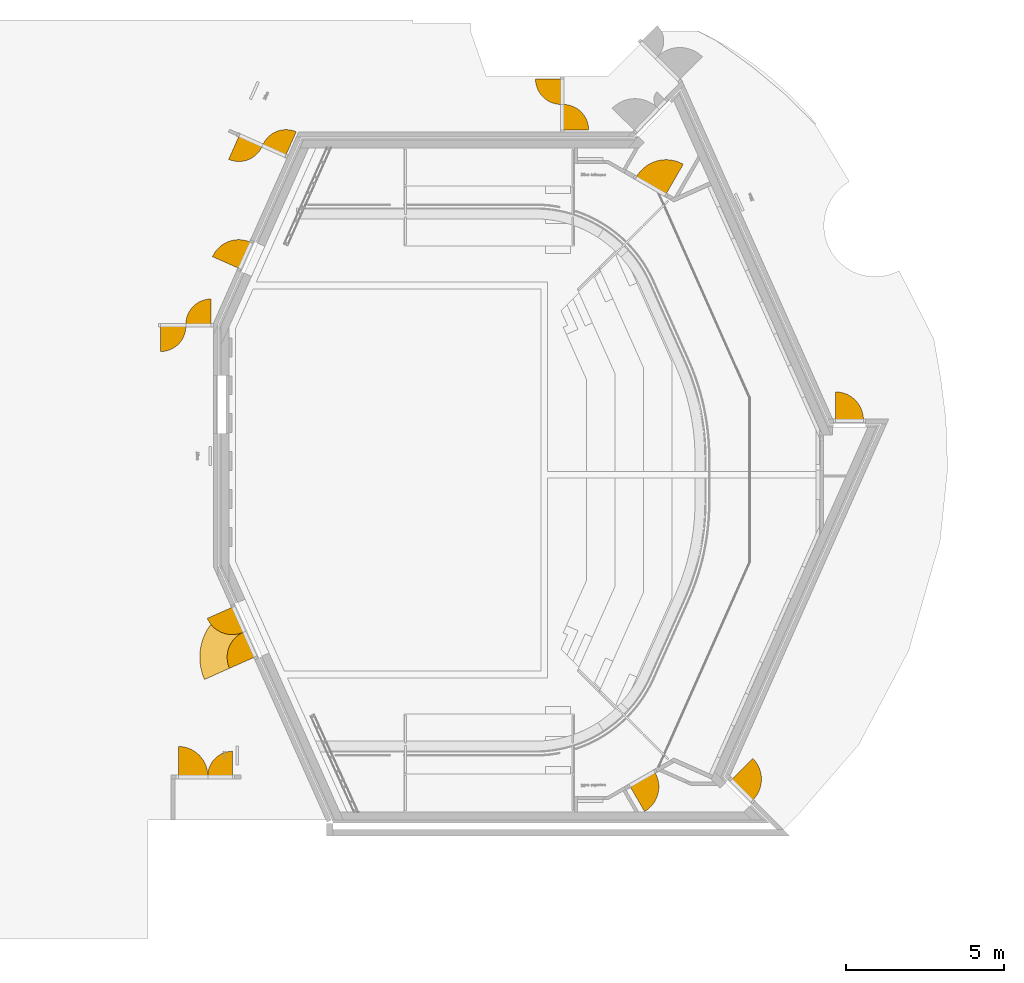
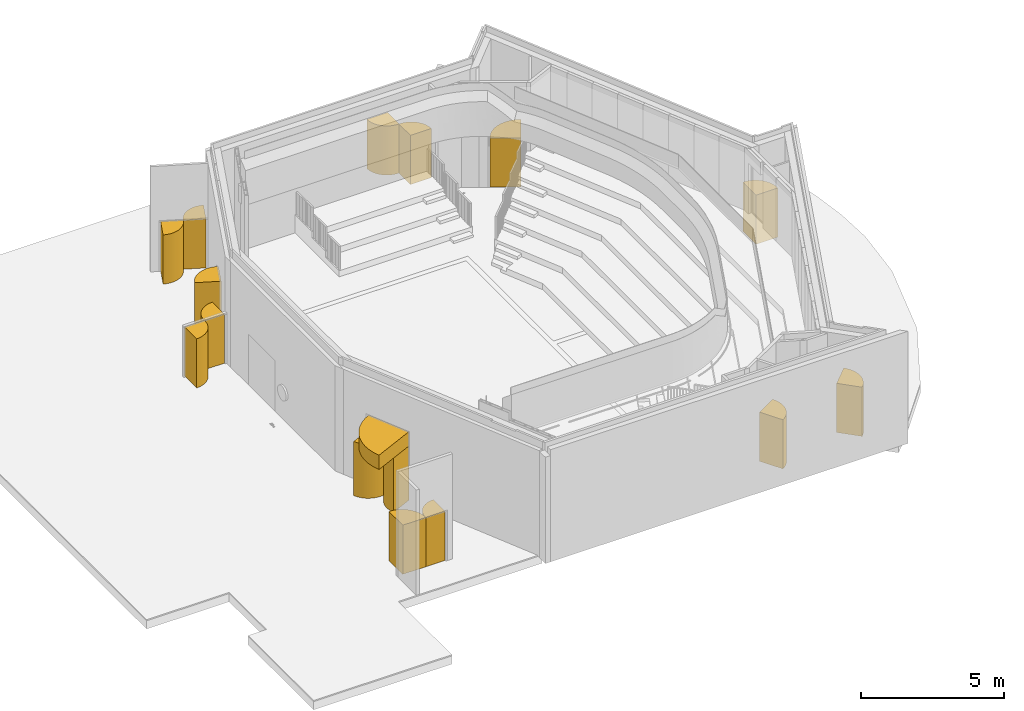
# One storey, part 13 of 19: 16 doors, 10 elements without a shape of their own.
"""IFC2X3 building model written with IfcOpenShell, lengths in millimetres."""

from ifc_helpers import new_model, entity, si_unit, converted_unit, derived_unit, direction, frame, frame_2d, origin, origin_2d_with_axis, place, context, subcontext, project, spatial, polyline, circle_curve, parameter, trimmed, segment, composite_curve, rectangle, outline, extrude, source, transform, mapped, material, material_list, type_object, type_shapes, element, aggregate, save


model = new_model("IFC2X3")

# Units and contexts
model_context = context("Model", 3, precision=0.01, world=origin(), true_north=direction((6.123031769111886e-17, 1.0)))
body_context = subcontext(model_context, "Body", "Model", "MODEL_VIEW")
ifc_project = project(units=[si_unit("LENGTHUNIT", "METRE", prefix="MILLI"), si_unit("AREAUNIT", "SQUARE_METRE"), si_unit("VOLUMEUNIT", "CUBIC_METRE"), converted_unit("PLANEANGLEUNIT", "DEGREE", entity("IfcRatioMeasure", 0.017453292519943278), si_unit("PLANEANGLEUNIT", "RADIAN"), dimensions=[0, 0, 0, 0, 0, 0, 0]), si_unit("MASSUNIT", "GRAM", prefix="KILO"), derived_unit("MASSDENSITYUNIT", [(si_unit("MASSUNIT", "GRAM", prefix="KILO"), 1), (si_unit("LENGTHUNIT", "METRE"), -3)]), derived_unit("MOMENTOFINERTIAUNIT", [(si_unit("LENGTHUNIT", "METRE"), 4)]), si_unit("TIMEUNIT", "SECOND"), si_unit("FREQUENCYUNIT", "HERTZ"), si_unit("THERMODYNAMICTEMPERATUREUNIT", "DEGREE_CELSIUS"), derived_unit("THERMALTRANSMITTANCEUNIT", [(si_unit("MASSUNIT", "GRAM", prefix="KILO"), 1), (si_unit("THERMODYNAMICTEMPERATUREUNIT", "KELVIN"), -1), (si_unit("TIMEUNIT", "SECOND"), -3)]), derived_unit("VOLUMETRICFLOWRATEUNIT", [(si_unit("LENGTHUNIT", "METRE"), 3), (si_unit("TIMEUNIT", "SECOND"), -1)]), derived_unit("MASSFLOWRATEUNIT", [(si_unit("MASSUNIT", "GRAM", prefix="KILO"), 1), (si_unit("TIMEUNIT", "SECOND"), -1)]), derived_unit("ROTATIONALFREQUENCYUNIT", [(si_unit("TIMEUNIT", "SECOND"), -1)]), si_unit("ELECTRICCURRENTUNIT", "AMPERE"), si_unit("ELECTRICVOLTAGEUNIT", "VOLT"), si_unit("POWERUNIT", "WATT"), si_unit("FORCEUNIT", "NEWTON", prefix="KILO"), si_unit("ILLUMINANCEUNIT", "LUX"), si_unit("LUMINOUSFLUXUNIT", "LUMEN"), si_unit("LUMINOUSINTENSITYUNIT", "CANDELA"), derived_unit("USERDEFINED", [(si_unit("MASSUNIT", "GRAM", prefix="KILO"), -1), (si_unit("LENGTHUNIT", "METRE"), -2), (si_unit("TIMEUNIT", "SECOND"), 3), (si_unit("LUMINOUSFLUXUNIT", "LUMEN"), 1)]), derived_unit("SOUNDPOWERUNIT", [(si_unit("MASSUNIT", "GRAM", prefix="KILO"), 1), (si_unit("LENGTHUNIT", "METRE"), 2), (si_unit("TIMEUNIT", "SECOND"), -3)]), derived_unit("SOUNDPRESSUREUNIT", [(si_unit("MASSUNIT", "GRAM", prefix="KILO"), 1), (si_unit("LENGTHUNIT", "METRE"), -1), (si_unit("TIMEUNIT", "SECOND"), -2)]), derived_unit("LINEARVELOCITYUNIT", [(si_unit("LENGTHUNIT", "METRE"), 1), (si_unit("TIMEUNIT", "SECOND"), -1)]), si_unit("PRESSUREUNIT", "PASCAL"), derived_unit("USERDEFINED", [(si_unit("LENGTHUNIT", "METRE"), -2), (si_unit("MASSUNIT", "GRAM", prefix="KILO"), 1), (si_unit("TIMEUNIT", "SECOND"), -2)]), derived_unit("LINEARFORCEUNIT", [(si_unit("MASSUNIT", "GRAM", prefix="KILO"), 1), (si_unit("LENGTHUNIT", "METRE"), 1), (si_unit("TIMEUNIT", "SECOND"), -2), (si_unit("LENGTHUNIT", "METRE"), -1)]), derived_unit("PLANARFORCEUNIT", [(si_unit("MASSUNIT", "GRAM", prefix="KILO"), 1), (si_unit("LENGTHUNIT", "METRE"), 1), (si_unit("TIMEUNIT", "SECOND"), -2), (si_unit("LENGTHUNIT", "METRE"), -2)])], contexts=[model_context])

# Site, building, storey
site_placement = place(None, frame((-10000.0, -10000.0, 0.0)))
site = spatial("IfcSite", under=ifc_project, at=site_placement, Name="Default", CompositionType="ELEMENT")
building_placement = place(site_placement, origin())
building = spatial("IfcBuilding", under=site, at=building_placement, CompositionType="ELEMENT")
storey_placement = place(building_placement, frame((0.0, 0.0, 4200.0)))
storey = spatial("IfcBuildingStorey", under=building, at=storey_placement, Name="01 1e verdieping", CompositionType="ELEMENT", Elevation=4200.000000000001)

# Curtain wall, door
curtain_wall_type = type_object("IfcCurtainWallType", Name="Curtain Wall:NLRS_32_CWA_houten binnenkozijnen ts90_ags", PredefinedType="NOTDEFINED")
curtain_wall_1_placement = place(storey_placement, frame((0.0, 0.0, -4200.0)))
curtain_wall_1 = element("IfcCurtainWall", 1, at=curtain_wall_1_placement, inside=storey, type_object=curtain_wall_type, Name="Curtain Wall:NLRS_32_CWA_houten binnenkozijnen ts90_ags", ObjectType="Curtain Wall:NLRS_32_CWA_houten binnenkozijnen ts90_ags")
ifc_material_1 = material(Name="NLRS_a_clashvolume")
ifc_material_2 = material(Name="<Unnamed>")
ifc_material_list_1 = material_list([ifc_material_1, ifc_material_2])
ifc_material_list_2 = material_list([ifc_material_1, ifc_material_2])
door_style_1 = type_object("IfcDoorStyle", Name="NLRS_31_DO_houten deur_ags:deur dicht", ConstructionType="NOTDEFINED", OperationType="NOTDEFINED", ParameterTakesPrecedence=False, Sizeable=False, material=ifc_material_list_2)
shared_shape_1 = source(origin(), body_context, "Body", "SweptSolid", [
    extrude(outline(composite_curve([segment(trimmed(circle_curve(frame_2d((-362.0, 362.0), x_axis=(1.0, 0.0)), 1085.999999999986), [parameter(270.0)], [parameter(0.0)], True, "PARAMETER"), True, "CONTINUOUS"), segment(polyline([(724.0, 362.0), (-362.0, 362.0)]), True, "CONTINUOUS"), segment(polyline([(-362.0, 362.0), (-362.0, -724.0)]), True, "CONTINUOUS")], self_intersect=False)), frame((-181.0, -394.4999999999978, 0.0)), (0.0, 0.0, 1.0), 2103.0),
    extrude(rectangle(XDim=40.00000000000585, YDim=1085.9999999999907, at=origin_2d_with_axis()), frame((0.0, -12.499999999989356, 0.0), z_axis=(0.0, 0.0, 1.0), x_axis=(0.0, 1.0, 0.0)), (0.0, 0.0, 1.0), 2103.0),
])
type_shapes(door_style_1, [shared_shape_1])
door_1_placement = place(curtain_wall_1_placement, frame((39123.48016969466, 47935.358131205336, 4200.0), z_axis=(0.0, 0.0, 1.0), x_axis=(-0.8660254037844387, 0.5000000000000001, 0.0)))
door_1 = element("IfcDoor", 2, at=door_1_placement, type_object=door_style_1, material=ifc_material_list_1, Name="NLRS_31_DO_houten deur_ags:deur dicht", ObjectType="NLRS_31_DO_houten deur_ags:deur dicht", OverallHeight=2103.000000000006, OverallWidth=1086.0000000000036, context=body_context, shape_type="MappedRepresentation", body=[
    mapped(shared_shape_1, transform((0.0, 0.0, 0.0), scale=1.0)),
])
aggregate(curtain_wall_1, [door_1])

curtain_wall_2_placement = place(storey_placement, frame((0.0, 0.0, -4200.0)))
curtain_wall_2 = element("IfcCurtainWall", 3, at=curtain_wall_2_placement, inside=storey, type_object=curtain_wall_type, Name="Curtain Wall:NLRS_32_CWA_houten binnenkozijnen ts90_ags", ObjectType="Curtain Wall:NLRS_32_CWA_houten binnenkozijnen ts90_ags")
ifc_material_list_3 = material_list([ifc_material_1, ifc_material_2])
ifc_material_list_4 = material_list([ifc_material_1, ifc_material_2])
door_style_2 = type_object("IfcDoorStyle", Name="NLRS_31_DO_houten deur_ags:deur dicht", ConstructionType="NOTDEFINED", OperationType="NOTDEFINED", ParameterTakesPrecedence=False, Sizeable=False, material=ifc_material_list_4)
shared_shape_2 = source(origin(), body_context, "Body", "SweptSolid", [
    extrude(outline(composite_curve([segment(trimmed(circle_curve(frame_2d((-302.0, 302.0), x_axis=(1.0, 0.0)), 906.0000000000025), [parameter(270.0)], [parameter(0.0)], True, "PARAMETER"), True, "CONTINUOUS"), segment(polyline([(604.0, 302.0), (-302.0, 302.0)]), True, "CONTINUOUS"), segment(polyline([(-302.0, 302.0), (-302.0, -604.0)]), True, "CONTINUOUS")], self_intersect=False)), frame((-151.0, -334.5000000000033, 0.0)), (0.0, 0.0, 1.0), 2103.0),
    extrude(rectangle(XDim=40.00000000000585, YDim=906.0000000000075, at=origin_2d_with_axis()), frame((0.0, -12.499999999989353, 0.0), z_axis=(0.0, 0.0, 1.0), x_axis=(0.0, 1.0, 0.0)), (0.0, 0.0, 1.0), 2103.0),
])
type_shapes(door_style_2, [shared_shape_2])
door_2_placement = place(curtain_wall_2_placement, frame((38850.68216750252, 29184.14186819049, 4200.0), z_axis=(0.0, 0.0, 1.0), x_axis=(0.8660254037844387, 0.5000000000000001, 0.0)))
door_2 = element("IfcDoor", 4, at=door_2_placement, type_object=door_style_2, material=ifc_material_list_3, Name="NLRS_31_DO_houten deur_ags:deur dicht", ObjectType="NLRS_31_DO_houten deur_ags:deur dicht", OverallHeight=2103.000000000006, OverallWidth=906.0000000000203, context=body_context, shape_type="MappedRepresentation", body=[
    mapped(shared_shape_2, transform((0.0, 0.0, 0.0), scale=1.0)),
])
aggregate(curtain_wall_2, [door_2])

curtain_wall_3_placement = place(storey_placement, frame((0.0, 0.0, -4200.0)))
curtain_wall_3 = element("IfcCurtainWall", 5, at=curtain_wall_3_placement, inside=storey, type_object=curtain_wall_type, Name="Curtain Wall:NLRS_32_CWA_houten binnenkozijnen ts90_ags", ObjectType="Curtain Wall:NLRS_32_CWA_houten binnenkozijnen ts90_ags")
ifc_material_list_5 = material_list([ifc_material_1, ifc_material_2])
ifc_material_list_6 = material_list([ifc_material_1, ifc_material_2])
door_style_3 = type_object("IfcDoorStyle", Name="NLRS_31_DO_houten deur_ags:deur dicht", ConstructionType="NOTDEFINED", OperationType="NOTDEFINED", ParameterTakesPrecedence=False, Sizeable=False, material=ifc_material_list_6)
shared_shape_3 = source(origin(), body_context, "Body", "SweptSolid", [
    extrude(outline(composite_curve([segment(polyline([(-590.6666666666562, -295.3333333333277), (295.333333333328, -295.3333333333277)]), True, "CONTINUOUS"), segment(polyline([(295.333333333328, -295.3333333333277), (295.333333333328, 590.6666666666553)]), True, "CONTINUOUS"), segment(trimmed(circle_curve(frame_2d((295.333333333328, -295.3333333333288), x_axis=(0.0, 1.0)), 885.9999999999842), [parameter(0.0)], [parameter(89.99999999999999)], True, "PARAMETER"), True, "CONTINUOUS")], self_intersect=False)), frame((147.6666666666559, -327.83333333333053, 0.0), z_axis=(0.0, 0.0, 1.0), x_axis=(0.0, 1.0, 0.0)), (0.0, 0.0, 1.0), 2103.0),
    extrude(rectangle(XDim=885.9999999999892, YDim=40.00000000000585, at=origin_2d_with_axis()), frame((0.0, -12.499999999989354, 0.0)), (0.0, 0.0, 1.0), 2103.0),
])
type_shapes(door_style_3, [shared_shape_3])
door_3_placement = place(curtain_wall_3_placement, frame((45413.57361464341, 40510.979027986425, 4200.0), z_axis=(0.0, 0.0, 1.0), x_axis=(-1.0, 0.0, 0.0)))
door_3 = element("IfcDoor", 6, at=door_3_placement, type_object=door_style_3, material=ifc_material_list_5, Name="NLRS_31_DO_houten deur_ags:deur dicht", ObjectType="NLRS_31_DO_houten deur_ags:deur dicht", OverallHeight=2103.000000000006, OverallWidth=886.0000000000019, context=body_context, shape_type="MappedRepresentation", body=[
    mapped(shared_shape_3, transform((0.0, 0.0, 0.0), scale=1.0)),
])
aggregate(curtain_wall_3, [door_3])

# Curtain wall, doors
curtain_wall_4_placement = place(storey_placement, frame((0.0, 0.0, -4200.0)))
curtain_wall_4 = element("IfcCurtainWall", 7, at=curtain_wall_4_placement, inside=storey, type_object=curtain_wall_type, Name="Curtain Wall:NLRS_32_CWA_houten binnenkozijnen ts90_ags", ObjectType="Curtain Wall:NLRS_32_CWA_houten binnenkozijnen ts90_ags")
ifc_material_list_7 = material_list([ifc_material_1, ifc_material_2])
ifc_material_list_8 = material_list([ifc_material_1, ifc_material_2])
door_style_4 = type_object("IfcDoorStyle", Name="NLRS_31_DO_houten deur_ags:deur dicht", ConstructionType="NOTDEFINED", OperationType="NOTDEFINED", ParameterTakesPrecedence=False, Sizeable=False, material=ifc_material_list_8)
shared_shape_4 = source(origin(), body_context, "Body", "SweptSolid", [
    extrude(outline(composite_curve([segment(polyline([(-577.0, -288.49999999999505), (288.49999999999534, -288.49999999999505)]), True, "CONTINUOUS"), segment(polyline([(288.49999999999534, -288.49999999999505), (288.49999999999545, 577.0)]), True, "CONTINUOUS"), segment(trimmed(circle_curve(frame_2d((288.49999999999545, -288.4999999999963), x_axis=(0.0, 1.0)), 865.4999999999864), [parameter(0.0)], [parameter(89.99999999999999)], True, "PARAMETER"), True, "CONTINUOUS")], self_intersect=False)), frame((144.2499999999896, -321.0, 0.0), z_axis=(0.0, 0.0, 1.0), x_axis=(0.0, 1.0, 0.0)), (0.0, 0.0, 1.0), 2319.999999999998),
    extrude(rectangle(XDim=865.4999999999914, YDim=40.00000000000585, at=origin_2d_with_axis()), frame((0.0, -12.499999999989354, 0.0)), (0.0, 0.0, 1.0), 2319.999999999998),
])
type_shapes(door_style_4, [shared_shape_4])
door_4_placement = place(curtain_wall_4_placement, frame((26434.017367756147, 33437.047401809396, 4200.0), z_axis=(0.0, 0.0, 1.0), x_axis=(0.40673664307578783, -0.9135454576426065, 0.0)))
door_4 = element("IfcDoor", 8, at=door_4_placement, type_object=door_style_4, material=ifc_material_list_7, Name="NLRS_31_DO_houten deur_ags:deur dicht", ObjectType="NLRS_31_DO_houten deur_ags:deur dicht", OverallHeight=2320.000000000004, OverallWidth=865.5000000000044, context=body_context, shape_type="MappedRepresentation", body=[
    mapped(shared_shape_4, transform((0.0, 0.0, 0.0), scale=1.0)),
])
ifc_material_list_9 = material_list([ifc_material_1, ifc_material_2])
ifc_material_list_10 = material_list([ifc_material_1, ifc_material_2])
door_style_5 = type_object("IfcDoorStyle", Name="NLRS_31_DO_houten deur_ags:deur dicht", ConstructionType="NOTDEFINED", OperationType="NOTDEFINED", ParameterTakesPrecedence=False, Sizeable=False, material=ifc_material_list_10)
shared_shape_5 = source(origin(), body_context, "Body", "SweptSolid", [
    extrude(outline(composite_curve([segment(trimmed(circle_curve(frame_2d((-288.499999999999, 288.49999999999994), x_axis=(1.0, 0.0)), 865.4999999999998), [parameter(270.0)], [parameter(0.0)], True, "PARAMETER"), True, "CONTINUOUS"), segment(polyline([(577.0, 288.49999999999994), (-288.4999999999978, 288.49999999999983)]), True, "CONTINUOUS"), segment(polyline([(-288.4999999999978, 288.49999999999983), (-288.4999999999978, -577.0)]), True, "CONTINUOUS")], self_intersect=False)), frame((-144.24999999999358, -321.0, 0.0)), (0.0, 0.0, 1.0), 2319.999999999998),
    extrude(rectangle(XDim=40.00000000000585, YDim=865.5000000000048, at=origin_2d_with_axis()), frame((0.0, -12.499999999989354, 0.0), z_axis=(0.0, 0.0, 1.0), x_axis=(0.0, 1.0, 0.0)), (0.0, 0.0, 1.0), 2319.999999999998),
])
type_shapes(door_style_5, [shared_shape_5])
door_5_placement = place(curtain_wall_4_placement, frame((26081.986803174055, 34227.72099539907, 4200.0), z_axis=(0.0, 0.0, 1.0), x_axis=(0.40673664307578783, -0.9135454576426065, 0.0)))
door_5 = element("IfcDoor", 9, at=door_5_placement, type_object=door_style_5, material=ifc_material_list_9, Name="NLRS_31_DO_houten deur_ags:deur dicht", ObjectType="NLRS_31_DO_houten deur_ags:deur dicht", OverallHeight=2320.000000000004, OverallWidth=865.5000000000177, context=body_context, shape_type="MappedRepresentation", body=[
    mapped(shared_shape_5, transform((0.0, 0.0, 0.0), scale=1.0)),
])
ifc_material_list_11 = material_list([ifc_material_1, ifc_material_2])
ifc_material_list_12 = material_list([ifc_material_1, ifc_material_2])
door_style_6 = type_object("IfcDoorStyle", Name="NLRS_31_DO_houten deur kiep boven_ags:deur dicht", ConstructionType="NOTDEFINED", OperationType="NOTDEFINED", ParameterTakesPrecedence=False, Sizeable=False, material=ifc_material_list_12)
shared_shape_6 = source(origin(), body_context, "Body", "SweptSolid", [
    extrude(outline(composite_curve([segment(polyline([(-1154.0, -577.0), (577.0, -577.0)]), True, "CONTINUOUS"), segment(polyline([(577.0, -577.0), (577.0, 1154.0)]), True, "CONTINUOUS"), segment(trimmed(circle_curve(frame_2d((577.0, -577.0), x_axis=(0.0, 1.0)), 1730.999999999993), [parameter(0.0)], [parameter(89.99999999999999)], True, "PARAMETER"), True, "CONTINUOUS")], self_intersect=False)), frame((288.49999999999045, -609.5, 0.0), z_axis=(0.0, 0.0, 1.0), x_axis=(0.0, 1.0, 0.0)), (0.0, 0.0, 1.0), 613.0000000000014),
    extrude(rectangle(XDim=1730.9999999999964, YDim=40.00000000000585, at=origin_2d_with_axis()), frame((0.0, -12.499999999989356, 0.0)), (0.0, 0.0, 1.0), 613.0000000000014),
])
type_shapes(door_style_6, [shared_shape_6])
door_6_placement = place(curtain_wall_4_placement, frame((26258.002085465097, 33832.38419860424, 6520.0), z_axis=(0.0, 0.0, 1.0), x_axis=(0.40673664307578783, -0.9135454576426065, 0.0)))
door_6 = element("IfcDoor", 10, at=door_6_placement, type_object=door_style_6, material=ifc_material_list_11, Name="NLRS_31_DO_houten deur kiep boven_ags:deur dicht", ObjectType="NLRS_31_DO_houten deur kiep boven_ags:deur dicht", OverallHeight=613.000000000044, OverallWidth=1731.0000000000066, context=body_context, shape_type="MappedRepresentation", body=[
    mapped(shared_shape_6, transform((0.0, 0.0, 0.0), scale=1.0)),
])
aggregate(curtain_wall_4, [door_4, door_5, door_6])

# Curtain wall, door
curtain_wall_5_placement = place(storey_placement, frame((0.0, 0.0, -4200.0)))
curtain_wall_5 = element("IfcCurtainWall", 11, at=curtain_wall_5_placement, inside=storey, type_object=curtain_wall_type, Name="Curtain Wall:NLRS_32_CWA_houten binnenkozijnen ts90_ags", ObjectType="Curtain Wall:NLRS_32_CWA_houten binnenkozijnen ts90_ags")
ifc_material_list_13 = material_list([ifc_material_1, ifc_material_2])
ifc_material_list_14 = material_list([ifc_material_1, ifc_material_2])
door_style_7 = type_object("IfcDoorStyle", Name="NLRS_31_DO_houten deur_ags:deur dicht", ConstructionType="NOTDEFINED", OperationType="NOTDEFINED", ParameterTakesPrecedence=False, Sizeable=False, material=ifc_material_list_14)
shared_shape_7 = source(origin(), body_context, "Body", "SweptSolid", [
    extrude(outline(composite_curve([segment(polyline([(-604.0, -302.0), (302.0, -302.0)]), True, "CONTINUOUS"), segment(polyline([(302.0, -302.0), (302.0, 604.0)]), True, "CONTINUOUS"), segment(trimmed(circle_curve(frame_2d((302.0, -302.0), x_axis=(0.0, 1.0)), 905.9999999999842), [parameter(0.0)], [parameter(89.99999999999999)], True, "PARAMETER"), True, "CONTINUOUS")], self_intersect=False)), frame((151.0, -334.49999999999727, 0.0), z_axis=(0.0, 0.0, 1.0), x_axis=(0.0, 1.0, 0.0)), (0.0, 0.0, 1.0), 2103.0),
    extrude(rectangle(XDim=905.9999999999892, YDim=40.00000000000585, at=origin_2d_with_axis()), frame((0.0, -12.499999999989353, 0.0)), (0.0, 0.0, 1.0), 2103.0),
])
type_shapes(door_style_7, [shared_shape_7])
door_7_placement = place(curtain_wall_5_placement, frame((26293.59154172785, 45740.3664918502, 4200.0), z_axis=(0.0, 0.0, 1.0), x_axis=(-0.40673664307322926, -0.9135454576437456, 0.0)))
door_7 = element("IfcDoor", 12, at=door_7_placement, type_object=door_style_7, material=ifc_material_list_13, Name="NLRS_31_DO_houten deur_ags:deur dicht", ObjectType="NLRS_31_DO_houten deur_ags:deur dicht", OverallHeight=2103.000000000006, OverallWidth=906.0000000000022, context=body_context, shape_type="MappedRepresentation", body=[
    mapped(shared_shape_7, transform((0.0, 0.0, 0.0), scale=1.0)),
])
aggregate(curtain_wall_5, [door_7])

curtain_wall_6_placement = place(storey_placement, frame((0.0, 0.0, -4200.0)))
curtain_wall_6 = element("IfcCurtainWall", 13, at=curtain_wall_6_placement, inside=storey, type_object=curtain_wall_type, Name="Curtain Wall:NLRS_32_CWA_houten binnenkozijnen ts90_ags", ObjectType="Curtain Wall:NLRS_32_CWA_houten binnenkozijnen ts90_ags")
ifc_material_list_15 = material_list([ifc_material_1, ifc_material_2])
ifc_material_list_16 = material_list([ifc_material_1, ifc_material_2])
door_style_8 = type_object("IfcDoorStyle", Name="NLRS_31_DO_houten deur_ags:deur dicht", ConstructionType="NOTDEFINED", OperationType="NOTDEFINED", ParameterTakesPrecedence=False, Sizeable=False, material=ifc_material_list_16)
shared_shape_8 = source(origin(), body_context, "Body", "SweptSolid", [
    extrude(outline(composite_curve([segment(polyline([(-620.6666666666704, -310.3333333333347), (310.33333333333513, -310.3333333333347)]), True, "CONTINUOUS"), segment(polyline([(310.33333333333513, -310.33333333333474), (310.33333333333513, 620.6666666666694)]), True, "CONTINUOUS"), segment(trimmed(circle_curve(frame_2d((310.33333333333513, -310.33333333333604), x_axis=(0.0, 1.0)), 931.0000000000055), [parameter(0.0)], [parameter(89.99999999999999)], True, "PARAMETER"), True, "CONTINUOUS")], self_intersect=False)), frame((155.16666666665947, -342.83333333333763, 0.0), z_axis=(0.0, 0.0, 1.0), x_axis=(0.0, 1.0, 0.0)), (0.0, 0.0, 1.0), 2103.0),
    extrude(rectangle(XDim=931.0000000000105, YDim=40.00000000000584, at=origin_2d_with_axis()), frame((0.0, -12.499999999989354, 0.0)), (0.0, 0.0, 1.0), 2103.0),
])
type_shapes(door_style_8, [shared_shape_8])
door_8_placement = place(curtain_wall_6_placement, frame((42003.218005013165, 28814.782664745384, 4200.0), z_axis=(0.0, 0.0, 1.0), x_axis=(-0.7071067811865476, 0.7071067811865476, 0.0)))
door_8 = element("IfcDoor", 14, at=door_8_placement, type_object=door_style_8, material=ifc_material_list_15, Name="NLRS_31_DO_houten deur_ags:deur dicht", ObjectType="NLRS_31_DO_houten deur_ags:deur dicht", OverallHeight=2103.000000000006, OverallWidth=931.0000000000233, context=body_context, shape_type="MappedRepresentation", body=[
    mapped(shared_shape_8, transform((0.0, 0.0, 0.0), scale=1.0)),
])
aggregate(curtain_wall_6, [door_8])

# Curtain wall, doors
curtain_wall_7_placement = place(storey_placement, frame((0.0, 0.0, -4200.0)))
curtain_wall_7 = element("IfcCurtainWall", 15, at=curtain_wall_7_placement, inside=storey, type_object=curtain_wall_type, Name="Curtain Wall:NLRS_32_CWA_houten binnenkozijnen ts90_ags", ObjectType="Curtain Wall:NLRS_32_CWA_houten binnenkozijnen ts90_ags")
ifc_material_list_17 = material_list([ifc_material_1, ifc_material_2])
ifc_material_list_18 = material_list([ifc_material_1, ifc_material_2])
door_style_9 = type_object("IfcDoorStyle", Name="NLRS_31_DO_houten deur_ags:deur dicht", ConstructionType="NOTDEFINED", OperationType="NOTDEFINED", ParameterTakesPrecedence=False, Sizeable=False, material=ifc_material_list_18)
shared_shape_9 = source(origin(), body_context, "Body", "SweptSolid", [
    extrude(outline(composite_curve([segment(trimmed(circle_curve(frame_2d((-269.33174976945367, 269.3317497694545), x_axis=(1.0, 0.0)), 807.9952493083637), [parameter(270.0)], [parameter(0.0)], True, "PARAMETER"), True, "CONTINUOUS"), segment(polyline([(538.66349953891, 269.3317497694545), (-269.3317497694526, 269.3317497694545)]), True, "CONTINUOUS"), segment(polyline([(-269.3317497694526, 269.3317497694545), (-269.3317497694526, -538.6634995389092)]), True, "CONTINUOUS")], self_intersect=False)), frame((-134.66587488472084, -301.831749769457, 0.0)), (0.0, 0.0, 1.0), 2103.0),
    extrude(rectangle(XDim=40.00000000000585, YDim=807.9952493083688, at=origin_2d_with_axis()), frame((0.0, -12.499999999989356, 0.0), z_axis=(0.0, 0.0, 1.0), x_axis=(0.0, 1.0, 0.0)), (0.0, 0.0, 1.0), 2103.0),
])
type_shapes(door_style_9, [shared_shape_9])
door_9_placement = place(curtain_wall_7_placement, frame((36317.06459566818, 50930.99762465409, 4200.0), z_axis=(0.0, 0.0, 1.0), x_axis=(0.0, -1.0, 0.0)))
door_9 = element("IfcDoor", 16, at=door_9_placement, type_object=door_style_9, material=ifc_material_list_17, Name="NLRS_31_DO_houten deur_ags:deur dicht", ObjectType="NLRS_31_DO_houten deur_ags:deur dicht", OverallHeight=2103.000000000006, OverallWidth=807.9952493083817, context=body_context, shape_type="MappedRepresentation", body=[
    mapped(shared_shape_9, transform((0.0, 0.0, 0.0), scale=1.0)),
])
ifc_material_list_19 = material_list([ifc_material_1, ifc_material_2])
ifc_material_list_20 = material_list([ifc_material_1, ifc_material_2])
door_style_10 = type_object("IfcDoorStyle", Name="NLRS_31_DO_houten deur_ags:deur dicht", ConstructionType="NOTDEFINED", OperationType="NOTDEFINED", ParameterTakesPrecedence=False, Sizeable=False, material=ifc_material_list_20)
shared_shape_10 = source(origin(), body_context, "Body", "SweptSolid", [
    extrude(outline(composite_curve([segment(trimmed(circle_curve(frame_2d((-269.3333333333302, 269.333333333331), x_axis=(1.0, 0.0)), 807.9999999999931), [parameter(270.0)], [parameter(0.0)], True, "PARAMETER"), True, "CONTINUOUS"), segment(polyline([(538.6666666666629, 269.333333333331), (-269.3333333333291, 269.333333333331)]), True, "CONTINUOUS"), segment(polyline([(-269.3333333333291, 269.333333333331), (-269.3333333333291, -538.6666666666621)]), True, "CONTINUOUS")], self_intersect=False)), frame((-134.66666666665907, -301.8333333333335, 0.0)), (0.0, 0.0, 1.0), 2103.0),
    extrude(rectangle(XDim=40.00000000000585, YDim=807.9999999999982, at=origin_2d_with_axis()), frame((0.0, -12.499999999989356, 0.0), z_axis=(0.0, 0.0, 1.0), x_axis=(0.0, 1.0, 0.0)), (0.0, 0.0, 1.0), 2103.0),
])
type_shapes(door_style_10, [shared_shape_10])
door_10_placement = place(curtain_wall_7_placement, frame((36317.06459566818, 50123.0, 4200.0), z_axis=(0.0, 0.0, 1.0), x_axis=(0.0, 1.0, 0.0)))
door_10 = element("IfcDoor", 17, at=door_10_placement, type_object=door_style_10, material=ifc_material_list_19, Name="NLRS_31_DO_houten deur_ags:deur dicht", ObjectType="NLRS_31_DO_houten deur_ags:deur dicht", OverallHeight=2103.000000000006, OverallWidth=808.0000000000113, context=body_context, shape_type="MappedRepresentation", body=[
    mapped(shared_shape_10, transform((0.0, 0.0, 0.0), scale=1.0)),
])
aggregate(curtain_wall_7, [door_9, door_10])

curtain_wall_8_placement = place(storey_placement, frame((0.0, 0.0, -4200.0)))
curtain_wall_8 = element("IfcCurtainWall", 18, at=curtain_wall_8_placement, inside=storey, type_object=curtain_wall_type, Name="Curtain Wall:NLRS_32_CWA_houten binnenkozijnen ts90_ags", ObjectType="Curtain Wall:NLRS_32_CWA_houten binnenkozijnen ts90_ags")
ifc_material_list_21 = material_list([ifc_material_1, ifc_material_2])
ifc_material_list_22 = material_list([ifc_material_1, ifc_material_2])
door_style_11 = type_object("IfcDoorStyle", Name="NLRS_31_DO_houten deur_ags:deur dicht", ConstructionType="NOTDEFINED", OperationType="NOTDEFINED", ParameterTakesPrecedence=False, Sizeable=False, material=ifc_material_list_22)
shared_shape_11 = source(origin(), body_context, "Body", "SweptSolid", [
    extrude(outline(composite_curve([segment(trimmed(circle_curve(frame_2d((-266.7741878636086, 266.7741878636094), x_axis=(1.0, 0.0)), 800.3225635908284), [parameter(270.0)], [parameter(0.0)], True, "PARAMETER"), True, "CONTINUOUS"), segment(polyline([(533.5483757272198, 266.7741878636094), (-266.7741878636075, 266.7741878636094)]), True, "CONTINUOUS"), segment(polyline([(-266.7741878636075, 266.7741878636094), (-266.7741878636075, -533.548375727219)]), True, "CONTINUOUS")], self_intersect=False)), frame((-133.3870939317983, -299.2741878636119, 0.0)), (0.0, 0.0, 1.0), 2103.0),
    extrude(rectangle(XDim=40.00000000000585, YDim=800.3225635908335, at=origin_2d_with_axis()), frame((0.0, -12.499999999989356, 0.0), z_axis=(0.0, 0.0, 1.0), x_axis=(0.0, 1.0, 0.0)), (0.0, 0.0, 1.0), 2103.0),
])
type_shapes(door_style_11, [shared_shape_11])
door_11_placement = place(curtain_wall_8_placement, frame((26467.509472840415, 49387.359716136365, 4200.0), z_axis=(0.0, 0.0, 1.0), x_axis=(0.9135454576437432, -0.4067366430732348, 0.0)))
door_11 = element("IfcDoor", 19, at=door_11_placement, type_object=door_style_11, material=ifc_material_list_21, Name="NLRS_31_DO_houten deur_ags:deur dicht", ObjectType="NLRS_31_DO_houten deur_ags:deur dicht", OverallHeight=2103.000000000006, OverallWidth=800.3225635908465, context=body_context, shape_type="MappedRepresentation", body=[
    mapped(shared_shape_11, transform((0.0, 0.0, 0.0), scale=1.0)),
])
ifc_material_list_23 = material_list([ifc_material_1, ifc_material_2])
door_12_placement = place(curtain_wall_8_placement, frame((27198.640515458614, 49061.83920324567, 4200.0), z_axis=(0.0, 0.0, 1.0), x_axis=(-0.9135454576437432, 0.4067366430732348, 0.0)))
door_12 = element("IfcDoor", 20, at=door_12_placement, type_object=door_style_11, material=ifc_material_list_23, Name="NLRS_31_DO_houten deur_ags:deur dicht", ObjectType="NLRS_31_DO_houten deur_ags:deur dicht", OverallHeight=2103.000000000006, OverallWidth=800.3225635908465, context=body_context, shape_type="MappedRepresentation", body=[
    mapped(shared_shape_11, transform((0.0, 0.0, 0.0), scale=1.0)),
])
aggregate(curtain_wall_8, [door_11, door_12])

curtain_wall_9_placement = place(storey_placement, frame((0.0, 0.0, -4200.0)))
curtain_wall_9 = element("IfcCurtainWall", 21, at=curtain_wall_9_placement, inside=storey, type_object=curtain_wall_type, Name="Curtain Wall:NLRS_32_CWA_houten binnenkozijnen ts90_ags", ObjectType="Curtain Wall:NLRS_32_CWA_houten binnenkozijnen ts90_ags")
ifc_material_list_24 = material_list([ifc_material_1, ifc_material_2])
door_13_placement = place(curtain_wall_9_placement, frame((24007.516154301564, 43535.71225095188, 4200.0)))
door_13 = element("IfcDoor", 22, at=door_13_placement, type_object=door_style_11, material=ifc_material_list_24, Name="NLRS_31_DO_houten deur_ags:deur dicht", ObjectType="NLRS_31_DO_houten deur_ags:deur dicht", OverallHeight=2103.000000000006, OverallWidth=800.3225635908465, context=body_context, shape_type="MappedRepresentation", body=[
    mapped(shared_shape_11, transform((0.0, 0.0, 0.0), scale=1.0)),
])
ifc_material_list_25 = material_list([ifc_material_1, ifc_material_2])
door_14_placement = place(curtain_wall_9_placement, frame((24807.8387178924, 43535.71225095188, 4200.0), z_axis=(0.0, 0.0, 1.0), x_axis=(-1.0, 0.0, 0.0)))
door_14 = element("IfcDoor", 23, at=door_14_placement, type_object=door_style_11, material=ifc_material_list_25, Name="NLRS_31_DO_houten deur_ags:deur dicht", ObjectType="NLRS_31_DO_houten deur_ags:deur dicht", OverallHeight=2103.000000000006, OverallWidth=800.3225635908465, context=body_context, shape_type="MappedRepresentation", body=[
    mapped(shared_shape_11, transform((0.0, 0.0, 0.0), scale=1.0)),
])
aggregate(curtain_wall_9, [door_13, door_14])

curtain_wall_10_placement = place(storey_placement, frame((0.0, 0.0, -4200.0)))
curtain_wall_10 = element("IfcCurtainWall", 24, at=curtain_wall_10_placement, inside=storey, type_object=curtain_wall_type, Name="Curtain Wall:NLRS_32_CWA_houten binnenkozijnen ts90_ags", ObjectType="Curtain Wall:NLRS_32_CWA_houten binnenkozijnen ts90_ags")
ifc_material_list_26 = material_list([ifc_material_1, ifc_material_2])
ifc_material_list_27 = material_list([ifc_material_1, ifc_material_2])
door_style_12 = type_object("IfcDoorStyle", Name="NLRS_31_DO_houten deur_ags:deur dicht", ConstructionType="NOTDEFINED", OperationType="NOTDEFINED", ParameterTakesPrecedence=False, Sizeable=False, material=ifc_material_list_27)
shared_shape_12 = source(origin(), body_context, "Body", "SweptSolid", [
    extrude(outline(composite_curve([segment(polyline([(-622.0, -311.0), (311.0, -311.0)]), True, "CONTINUOUS"), segment(polyline([(311.0, -311.0), (311.0, 622.0)]), True, "CONTINUOUS"), segment(trimmed(circle_curve(frame_2d((311.0, -311.0), x_axis=(0.0, 1.0)), 932.9999999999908), [parameter(0.0)], [parameter(89.99999999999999)], True, "PARAMETER"), True, "CONTINUOUS")], self_intersect=False)), frame((155.4999999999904, -343.4999999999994, 0.0), z_axis=(0.0, 0.0, 1.0), x_axis=(0.0, 1.0, 0.0)), (0.0, 0.0, 1.0), 2103.0),
    extrude(rectangle(XDim=932.9999999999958, YDim=40.00000000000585, at=origin_2d_with_axis()), frame((0.0, -12.499999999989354, 0.0)), (0.0, 0.0, 1.0), 2103.0),
])
type_shapes(door_style_12, [shared_shape_12])
door_15_placement = place(curtain_wall_10_placement, frame((24635.94439931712, 29237.4999996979, 4200.0), z_axis=(0.0, 0.0, 1.0), x_axis=(-1.0, 0.0, 0.0)))
door_15 = element("IfcDoor", 25, at=door_15_placement, type_object=door_style_12, material=ifc_material_list_26, Name="NLRS_31_DO_houten deur_ags:deur dicht", ObjectType="NLRS_31_DO_houten deur_ags:deur dicht", OverallHeight=2103.000000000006, OverallWidth=933.0000000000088, context=body_context, shape_type="MappedRepresentation", body=[
    mapped(shared_shape_12, transform((0.0, 0.0, 0.0), scale=1.0)),
])
ifc_material_list_28 = material_list([ifc_material_1, ifc_material_2])
ifc_material_list_29 = material_list([ifc_material_1, ifc_material_2])
door_style_13 = type_object("IfcDoorStyle", Name="NLRS_31_DO_houten deur_ags:deur dicht", ConstructionType="NOTDEFINED", OperationType="NOTDEFINED", ParameterTakesPrecedence=False, Sizeable=False, material=ifc_material_list_29)
shared_shape_13 = source(origin(), body_context, "Body", "SweptSolid", [
    extrude(outline(composite_curve([segment(trimmed(circle_curve(frame_2d((-261.0, 261.0), x_axis=(1.0, 0.0)), 782.9999999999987), [parameter(270.0)], [parameter(0.0)], True, "PARAMETER"), True, "CONTINUOUS"), segment(polyline([(522.0, 261.0), (-261.0, 261.0)]), True, "CONTINUOUS"), segment(polyline([(-261.0, 261.0), (-261.0, -522.0)]), True, "CONTINUOUS")], self_intersect=False)), frame((-130.49999999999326, -293.50000000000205, 0.0)), (0.0, 0.0, 1.0), 2103.0),
    extrude(rectangle(XDim=40.00000000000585, YDim=783.0000000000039, at=origin_2d_with_axis()), frame((0.0, -12.499999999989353, 0.0), z_axis=(0.0, 0.0, 1.0), x_axis=(0.0, 1.0, 0.0)), (0.0, 0.0, 1.0), 2103.0),
])
type_shapes(door_style_13, [shared_shape_13])
door_16_placement = place(curtain_wall_10_placement, frame((25493.94439931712, 29237.4999996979, 4200.0), z_axis=(0.0, 0.0, 1.0), x_axis=(-1.0, 0.0, 0.0)))
door_16 = element("IfcDoor", 26, at=door_16_placement, type_object=door_style_13, material=ifc_material_list_28, Name="NLRS_31_DO_houten deur_ags:deur dicht", ObjectType="NLRS_31_DO_houten deur_ags:deur dicht", OverallHeight=2103.000000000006, OverallWidth=783.0000000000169, context=body_context, shape_type="MappedRepresentation", body=[
    mapped(shared_shape_13, transform((0.0, 0.0, 0.0), scale=1.0)),
])
aggregate(curtain_wall_10, [door_15, door_16])

save(model, "model.ifc")
